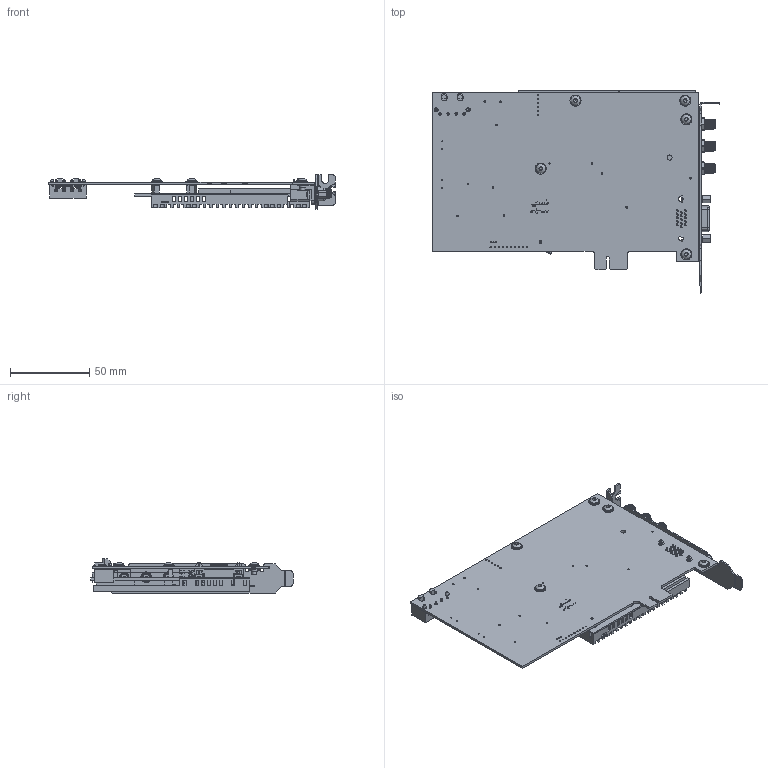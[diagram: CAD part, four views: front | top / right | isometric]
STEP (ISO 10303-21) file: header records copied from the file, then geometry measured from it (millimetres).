
FILE_DESCRIPTION (( 'STEP AP203' ), '1' );
FILE_NAME ('930031_PQ.070.0031.0001.12_TH260_PICO_Dual.STEP', '2026-03-20T14:04:55', ( '' ), ( '' ), 'SwSTEP 2.0', 'SolidWorks 2025', '' );
FILE_SCHEMA (( 'CONFIG_CONTROL_DESIGN' ));
Length unit declared in the file: millimetre
Products named in the file (1): 930031_PQ.070.0031.0001.12_TH260_PICO_Dual
Bounding box: 181.4 x 127.89 x 21.6 mm (x, y, z)
Surface area: 98269.3 mm2 (no closed solid volume)
Topology: 0 solids, 77 shells, 1094 faces, 4258 edges, 3181 vertices
Faces by surface type: plane 718, cylinder 264, bspline 56, cone 39, sphere 17
Full cylindrical faces by diameter (mm): 0.2 x8, 0.3 x1, 0.6 x2, 0.7 x10, 0.85 x2, 0.9 x37, 1 x26, 1.52 x4, 2.39 x2, 2.54 x2, 3 x5, 3.2 x1, 4 x3, 4.089 x3, 4.674 x3, 5.385 x3, 5.7 x5, 7 x7, 9 x3
Entity records: 57706 total; most frequent: CARTESIAN_POINT 26689, ORIENTED_EDGE 6335, DIRECTION 4615, EDGE_CURVE 4107, VERTEX_POINT 3172, B_SPLINE_CURVE_WITH_KNOTS 2088, EDGE_LOOP 1682, AXIS2_PLACEMENT_3D 1592
